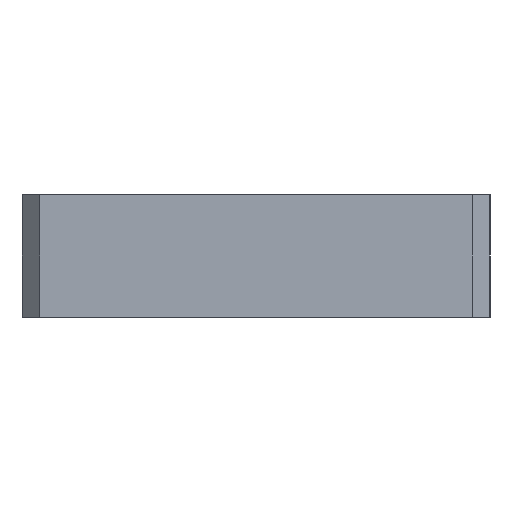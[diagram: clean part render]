
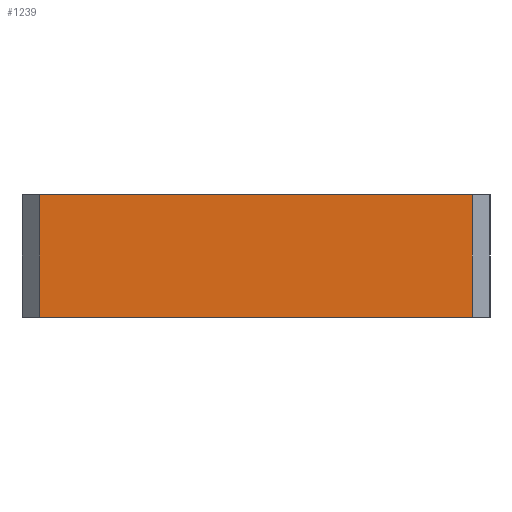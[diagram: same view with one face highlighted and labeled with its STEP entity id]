
A CAD part, left-side view. The second image highlights one B-rep face of the part: STEP entity #1239.
In plain terms, the highlighted planar face has unit normal (-1, 0, 0).
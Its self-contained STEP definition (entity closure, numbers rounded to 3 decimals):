
#38 = LINE ( 'NONE', #1543, #1551 ) ;
#45 = VECTOR ( 'NONE', #250, 1000. ) ;
#211 = EDGE_CURVE ( 'NONE', #238, #1679, #38, .T. ) ;
#227 = DIRECTION ( 'NONE',  ( 0., 0., -1. ) ) ;
#238 = VERTEX_POINT ( 'NONE', #301 ) ;
#250 = DIRECTION ( 'NONE',  ( 0., -1., 0. ) ) ;
#270 = CARTESIAN_POINT ( 'NONE',  ( -23.5, 3.6, 7. ) ) ;
#301 = CARTESIAN_POINT ( 'NONE',  ( -23.5, -21.1, 7. ) ) ;
#302 = EDGE_CURVE ( 'NONE', #1571, #1303, #566, .T. ) ;
#317 = DIRECTION ( 'NONE',  ( 0., 0., -1. ) ) ;
#387 = EDGE_CURVE ( 'NONE', #1303, #1679, #1526, .T. ) ;
#391 = FACE_OUTER_BOUND ( 'NONE', #476, .T. ) ;
#392 = CARTESIAN_POINT ( 'NONE',  ( -23.5, 3.6, 7. ) ) ;
#418 = CARTESIAN_POINT ( 'NONE',  ( -23.5, -21.1, 7. ) ) ;
#476 = EDGE_LOOP ( 'NONE', ( #814, #591, #1262, #487 ) ) ;
#487 = ORIENTED_EDGE ( 'NONE', *, *, #302, .T. ) ;
#495 = DIRECTION ( 'NONE',  ( 1., 0., 0. ) ) ;
#566 = LINE ( 'NONE', #392, #1613 ) ;
#589 = LINE ( 'NONE', #418, #45 ) ;
#591 = ORIENTED_EDGE ( 'NONE', *, *, #211, .F. ) ;
#659 = CARTESIAN_POINT ( 'NONE',  ( -23.5, -21.1, 7. ) ) ;
#753 = CARTESIAN_POINT ( 'NONE',  ( -23.5, 3.6, 0. ) ) ;
#814 = ORIENTED_EDGE ( 'NONE', *, *, #387, .T. ) ;
#983 = EDGE_CURVE ( 'NONE', #1571, #238, #589, .T. ) ;
#1020 = VECTOR ( 'NONE', #1166, 1000. ) ;
#1166 = DIRECTION ( 'NONE',  ( 0., -1., 0. ) ) ;
#1239 = ADVANCED_FACE ( 'NONE', ( #391 ), #1338, .F. ) ;
#1259 = CARTESIAN_POINT ( 'NONE',  ( -23.5, -21.1, 0. ) ) ;
#1262 = ORIENTED_EDGE ( 'NONE', *, *, #983, .F. ) ;
#1303 = VERTEX_POINT ( 'NONE', #753 ) ;
#1338 = PLANE ( 'NONE',  #1592 ) ;
#1342 = CARTESIAN_POINT ( 'NONE',  ( -23.5, -21.1, 0. ) ) ;
#1358 = DIRECTION ( 'NONE',  ( 0., 0., -1. ) ) ;
#1526 = LINE ( 'NONE', #1342, #1020 ) ;
#1543 = CARTESIAN_POINT ( 'NONE',  ( -23.5, -21.1, 7. ) ) ;
#1551 = VECTOR ( 'NONE', #1358, 1000. ) ;
#1571 = VERTEX_POINT ( 'NONE', #270 ) ;
#1592 = AXIS2_PLACEMENT_3D ( 'NONE', #659, #495, #317 ) ;
#1613 = VECTOR ( 'NONE', #227, 1000. ) ;
#1679 = VERTEX_POINT ( 'NONE', #1259 ) ;
